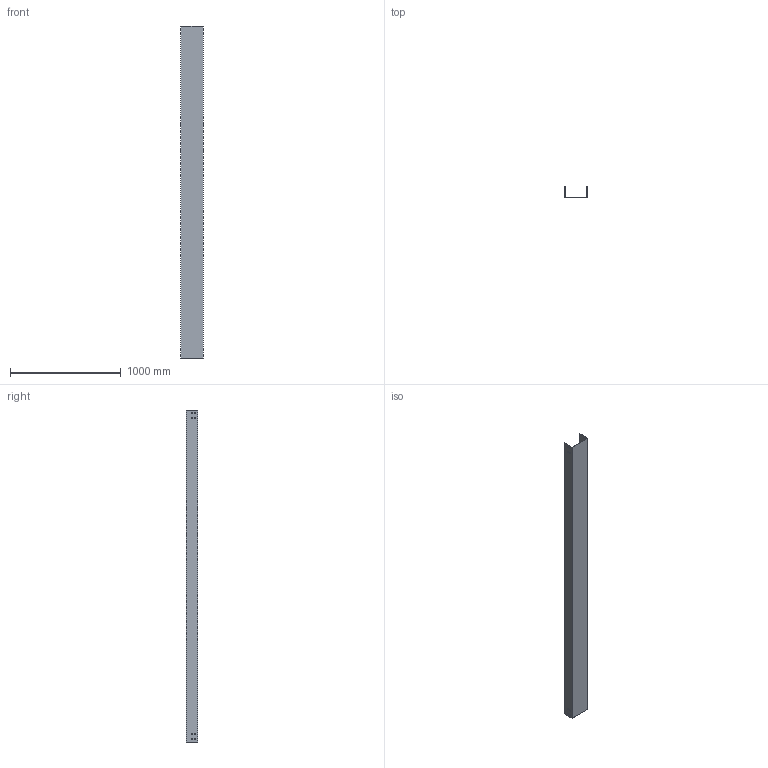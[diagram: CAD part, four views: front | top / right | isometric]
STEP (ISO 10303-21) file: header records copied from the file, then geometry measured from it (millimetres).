
FILE_DESCRIPTION (( 'STEP AP214' ), '1' );
FILE_NAME ('CC_201.step', '2025-07-16T09:04:08', ( '' ), ( '' ), 'SwSTEP 2.0', 'SolidWorks 2023', '' );
FILE_SCHEMA (( 'AUTOMOTIVE_DESIGN' ));
Length unit declared in the file: millimetre
Products named in the file (1): CC_201
Bounding box: 200 x 100 x 3000 mm (x, y, z)
Volume: 1784820 mm3; surface area: 2390767 mm2
Topology: 1 solids, 1 shells, 74 faces, 216 edges, 144 vertices
Faces by surface type: plane 74
Entity records: 2487 total; most frequent: CARTESIAN_POINT 435, ORIENTED_EDGE 432, DIRECTION 366, VECTOR 216, EDGE_CURVE 216, LINE 216, VERTEX_POINT 144, EDGE_LOOP 106
